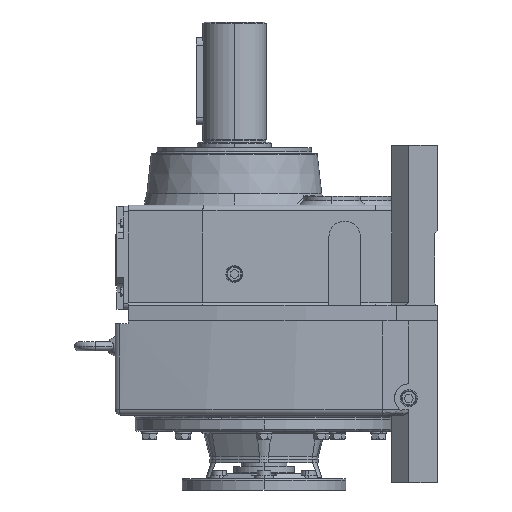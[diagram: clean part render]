
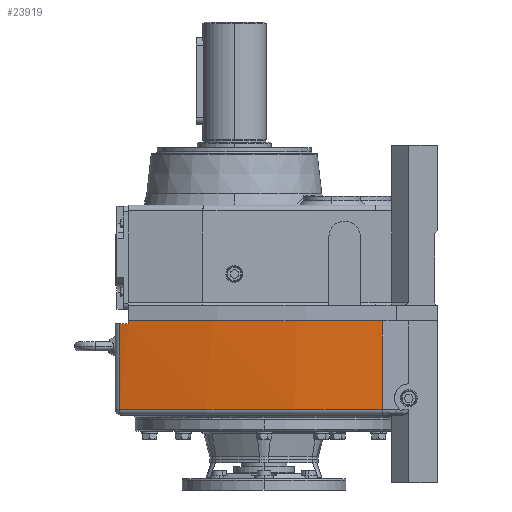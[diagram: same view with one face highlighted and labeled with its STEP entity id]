
A CAD part, left-side view. The second image highlights one B-rep face of the part: STEP entity #23919.
In plain terms, the highlighted cylindrical face has radius 1500 mm (diameter 3000 mm), a partial arc.
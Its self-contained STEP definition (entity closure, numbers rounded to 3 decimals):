
#2032 = CIRCLE ( 'NONE', #2099, 1500. ) ;
#2099 = AXIS2_PLACEMENT_3D ( 'NONE', #12758, #12757, #12756 ) ;
#4242 = DIRECTION ( 'NONE',  ( -1., 0., 0. ) ) ;
#4243 = DIRECTION ( 'NONE',  ( 0., 0., 1. ) ) ;
#4244 = CARTESIAN_POINT ( 'NONE',  ( 1233.2, -191.138, -283.5 ) ) ;
#6557 = VECTOR ( 'NONE', #15966, 1000. ) ;
#9981 = ORIENTED_EDGE ( 'NONE', *, *, #33391, .F. ) ;
#9982 = ORIENTED_EDGE ( 'NONE', *, *, #27198, .T. ) ;
#9983 = ORIENTED_EDGE ( 'NONE', *, *, #27927, .T. ) ;
#9984 = ORIENTED_EDGE ( 'NONE', *, *, #27197, .T. ) ;
#9985 = ORIENTED_EDGE ( 'NONE', *, *, #28999, .T. ) ;
#9986 = ORIENTED_EDGE ( 'NONE', *, *, #27192, .T. ) ;
#10504 = VERTEX_POINT ( 'NONE', #36839 ) ;
#10508 = VERTEX_POINT ( 'NONE', #36835 ) ;
#10511 = VERTEX_POINT ( 'NONE', #36832 ) ;
#10591 = VERTEX_POINT ( 'NONE', #36741 ) ;
#10601 = VERTEX_POINT ( 'NONE', #36730 ) ;
#10839 = VERTEX_POINT ( 'NONE', #36456 ) ;
#12756 = DIRECTION ( 'NONE',  ( 1., 0., 0. ) ) ;
#12757 = DIRECTION ( 'NONE',  ( 0., 0., -1. ) ) ;
#12758 = CARTESIAN_POINT ( 'NONE',  ( 1233.2, -191.138, -288.5 ) ) ;
#15966 = DIRECTION ( 'NONE',  ( 0., 0., 1. ) ) ;
#15967 = CARTESIAN_POINT ( 'NONE',  ( -265.276, -258.733, -448. ) ) ;
#18086 = CYLINDRICAL_SURFACE ( 'NONE', #29503, 1500. ) ;
#18087 = FACE_OUTER_BOUND ( 'NONE', #37390, .T. ) ;
#21973 = CIRCLE ( 'NONE', #21981, 1500. ) ;
#21981 = AXIS2_PLACEMENT_3D ( 'NONE', #4244, #4243, #4242 ) ;
#23919 = ADVANCED_FACE ( 'NONE', ( #18087 ), #18086, .T. ) ;
#23993 = LINE ( 'NONE', #15967, #6557 ) ;
#24472 = LINE ( 'NONE', #34040, #29619 ) ;
#24477 = LINE ( 'NONE', #34047, #29630 ) ;
#27192 = EDGE_CURVE ( 'NONE', #10511, #10601, #24477, .T. ) ;
#27197 = EDGE_CURVE ( 'NONE', #10591, #10839, #24472, .T. ) ;
#27198 = EDGE_CURVE ( 'NONE', #10839, #10504, #29629, .T. ) ;
#27927 = EDGE_CURVE ( 'NONE', #10504, #10508, #23993, .T. ) ;
#28999 = EDGE_CURVE ( 'NONE', #10601, #10591, #2032, .T. ) ;
#29503 = AXIS2_PLACEMENT_3D ( 'NONE', #33582, #33561, #33549 ) ;
#29618 = AXIS2_PLACEMENT_3D ( 'NONE', #34041, #34007, #34049 ) ;
#29619 = VECTOR ( 'NONE', #34046, 1000. ) ;
#29629 = CIRCLE ( 'NONE', #29618, 1500. ) ;
#29630 = VECTOR ( 'NONE', #34033, 1000. ) ;
#33391 = EDGE_CURVE ( 'NONE', #10511, #10508, #21973, .T. ) ;
#33549 = DIRECTION ( 'NONE',  ( 0., 1., 0. ) ) ;
#33561 = DIRECTION ( 'NONE',  ( 0., 0., 1. ) ) ;
#33582 = CARTESIAN_POINT ( 'NONE',  ( 1233.2, -191.138, -448. ) ) ;
#34007 = DIRECTION ( 'NONE',  ( 0., 0., 1. ) ) ;
#34033 = DIRECTION ( 'NONE',  ( 0., 0., -1. ) ) ;
#34040 = CARTESIAN_POINT ( 'NONE',  ( -214.741, 200.612, -448. ) ) ;
#34041 = CARTESIAN_POINT ( 'NONE',  ( 1233.2, -191.138, -438. ) ) ;
#34046 = DIRECTION ( 'NONE',  ( 0., 0., -1. ) ) ;
#34047 = CARTESIAN_POINT ( 'NONE',  ( -218.874, 185., -448. ) ) ;
#34049 = DIRECTION ( 'NONE',  ( 1., 0., 0. ) ) ;
#36456 = CARTESIAN_POINT ( 'NONE',  ( -214.741, 200.612, -438. ) ) ;
#36730 = CARTESIAN_POINT ( 'NONE',  ( -218.874, 185., -288.5 ) ) ;
#36741 = CARTESIAN_POINT ( 'NONE',  ( -214.741, 200.612, -288.5 ) ) ;
#36832 = CARTESIAN_POINT ( 'NONE',  ( -218.874, 185., -283.5 ) ) ;
#36835 = CARTESIAN_POINT ( 'NONE',  ( -265.276, -258.733, -283.5 ) ) ;
#36839 = CARTESIAN_POINT ( 'NONE',  ( -265.276, -258.733, -438. ) ) ;
#37390 = EDGE_LOOP ( 'NONE', ( #9986, #9985, #9984, #9982, #9983, #9981 ) ) ;
